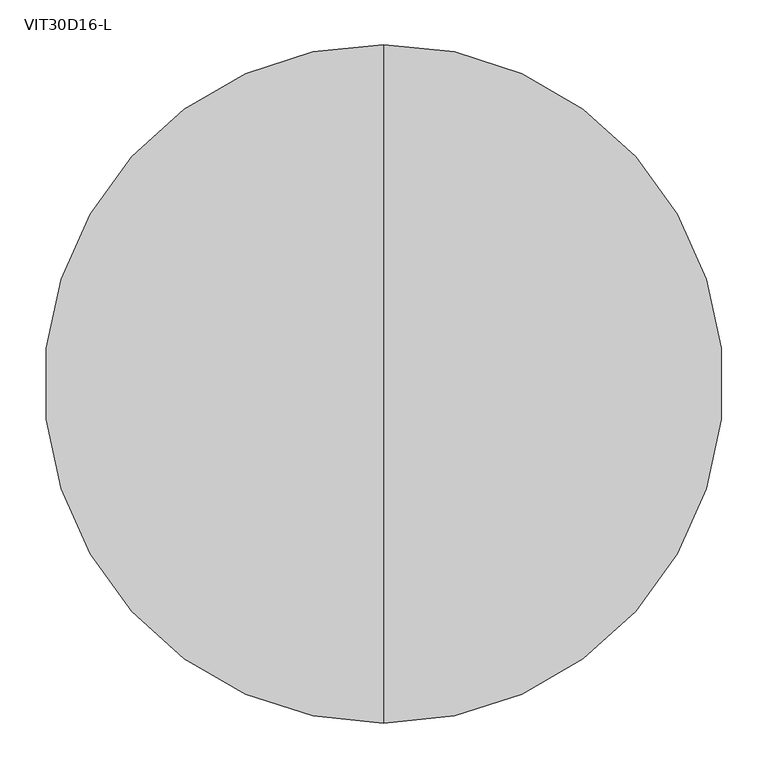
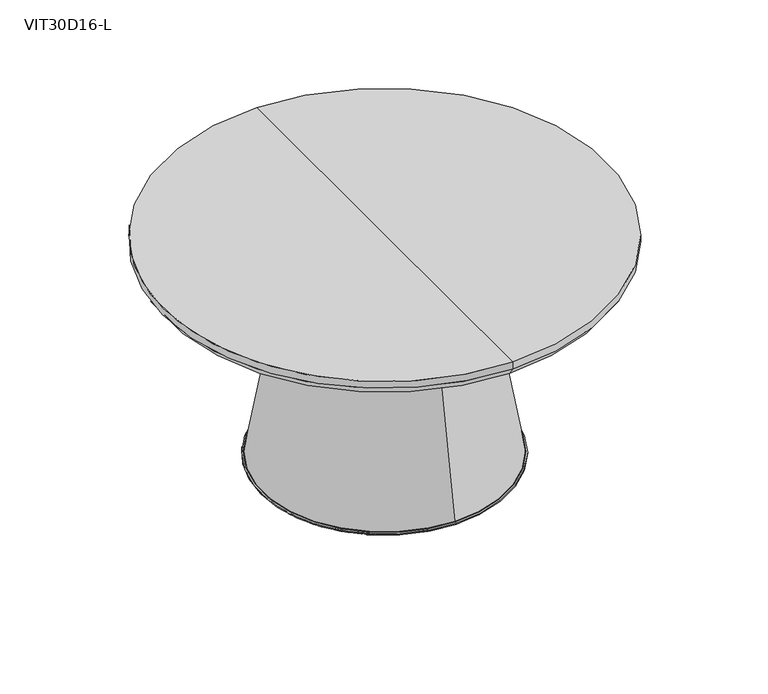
"""IFC4 building model written with IfcOpenShell, lengths in millimetres: furniture geometry, Stance_HC-Villa_Tables : VIT30D16-L."""

from ifc_helpers import new_model, si_unit, point, frame, frame_2d, origin, origin_with_axes, place, context, project, spatial, polyline, circle_curve, trimmed, segment, composite_curve, outline, extrude, source, transform, mapped, element, save
from ifc_brep_helpers import plane_surface, cylinder_surface, revolved_surface, advanced_brep


def vit30d16_l_2d9a9160(model_context):
    return source(origin(), model_context, "Body", "SolidModel", [
        advanced_brep(
        [(0.0, -143.8304782, 381.0), (0.0, 143.8304782, 381.0), (0.0, 209.2542601, 12.7402931), (0.0, -209.2542601, 12.7402931), (0.0, 0.0, 381.0), (0.0, 0.0, 12.7402931)],
        [
            (0, 1, circle_curve(frame((0.0, 0.0, 381.0), z_axis=(0.0, 0.0, -1.0), x_axis=(0.0, 1.0, 0.0)), 143.8304782)),
            (1, 2),
            (2, 3, circle_curve(frame((0.0, 0.0, 12.7402931), z_axis=(0.0, 0.0, 1.0), x_axis=(0.0, 1.0, 0.0)), 209.2542601)),
            (3, 0),
            (1, 0, circle_curve(frame((0.0, 0.0, 381.0), z_axis=(0.0, 0.0, -1.0), x_axis=(0.0, 1.0, 0.0)), 143.8304782)),
            (3, 2, circle_curve(frame((0.0, 0.0, 12.7402931), z_axis=(0.0, 0.0, 1.0), x_axis=(0.0, 1.0, 0.0)), 209.2542601)),
            (4, 1),
            (0, 4),
            (2, 5),
            (5, 3),
        ],
        [
            revolved_surface(polyline([(0.0, 209.2542601, 12.7402931), (0.0, 143.8304782, 381.0)]), (0.0, 0.0, 381.0), (0.0, 0.0, 1.0)),
            plane_surface(frame((0.0, 0.0, 381.0), z_axis=(0.0, 0.0, 1.0), x_axis=(0.0, 1.0, 0.0))),
            plane_surface(frame((0.0, 0.0, 12.7402931), z_axis=(0.0, 0.0, -1.0), x_axis=(0.0, 1.0, 0.0))),
        ],
        [
            (0, [[1, 2, 3, 4]]),
            (0, [[5, -4, 6, -2]]),
            (1, [[7, -1, 8]]),
            (1, [[-8, -5, -7]]),
            (2, [[-3, 9, 10]]),
            (2, [[-6, -10, -9]]),
        ],
    ),
        advanced_brep(
        [(0.0, -211.1240996, 7.9463926), (0.0, 211.1240996, 7.9463926), (0.0, 209.1775078, 7.9463926), (0.0, -209.1775078, 7.9463926), (0.0, -212.7493546, 9.5716476), (0.0, 212.7493546, 9.5716476), (0.0, -212.7493546, 11.1150382), (0.0, 212.7493546, 11.1150382), (0.0, -211.1240996, 12.7402931), (0.0, 211.1240996, 12.7402931), (0.0, -209.1775078, 12.7402931), (0.0, 209.1775078, 12.7402931)],
        [
            (0, 1, circle_curve(frame((0.0, 0.0, 7.9463926), z_axis=(0.0, 0.0, -1.0), x_axis=(0.0, 1.0, 0.0)), 211.1240996)),
            (1, 2),
            (2, 3, circle_curve(frame((0.0, 0.0, 7.9463926), z_axis=(0.0, 0.0, 1.0), x_axis=(0.0, 1.0, 0.0)), 209.1775078)),
            (3, 0),
            (1, 0, circle_curve(frame((0.0, 0.0, 7.9463926), z_axis=(0.0, 0.0, -1.0), x_axis=(0.0, 1.0, 0.0)), 211.1240996)),
            (3, 2, circle_curve(frame((0.0, 0.0, 7.9463926), z_axis=(0.0, 0.0, 1.0), x_axis=(0.0, 1.0, 0.0)), 209.1775078)),
            (4, 5, circle_curve(frame((0.0, 0.0, 9.5716476), z_axis=(0.0, 0.0, -1.0), x_axis=(0.0, 1.0, 0.0)), 212.7493546)),
            (5, 1),
            (0, 4),
            (5, 4, circle_curve(frame((0.0, 0.0, 9.5716476), z_axis=(0.0, 0.0, -1.0), x_axis=(0.0, 1.0, 0.0)), 212.7493546)),
            (6, 7, circle_curve(frame((0.0, 0.0, 11.1150382), z_axis=(0.0, 0.0, -1.0), x_axis=(0.0, 1.0, 0.0)), 212.7493546)),
            (7, 5),
            (4, 6),
            (7, 6, circle_curve(frame((0.0, 0.0, 11.1150382), z_axis=(0.0, 0.0, -1.0), x_axis=(0.0, 1.0, 0.0)), 212.7493546)),
            (8, 9, circle_curve(frame((0.0, 0.0, 12.7402931), z_axis=(0.0, 0.0, -1.0), x_axis=(0.0, 1.0, 0.0)), 211.1240996)),
            (9, 7),
            (6, 8),
            (9, 8, circle_curve(frame((0.0, 0.0, 12.7402931), z_axis=(0.0, 0.0, -1.0), x_axis=(0.0, 1.0, 0.0)), 211.1240996)),
            (10, 11, circle_curve(frame((0.0, 0.0, 12.7402931), z_axis=(0.0, 0.0, -1.0), x_axis=(0.0, 1.0, 0.0)), 209.1775078)),
            (11, 9),
            (8, 10),
            (11, 10, circle_curve(frame((0.0, 0.0, 12.7402931), z_axis=(0.0, 0.0, -1.0), x_axis=(0.0, 1.0, 0.0)), 209.1775078)),
            (2, 11),
            (10, 3),
        ],
        [
            plane_surface(frame((0.0, 0.0, 7.9463926), z_axis=(0.0, 0.0, -1.0), x_axis=(0.0, 1.0, 0.0))),
            revolved_surface(polyline([(0.0, 211.1240996, 7.9463926), (0.0, 212.7493546, 9.5716476)]), (0.0, 0.0, 0.0), (0.0, 0.0, 1.0)),
            cylinder_surface(frame((0.0, 0.0, 0.0), z_axis=(0.0, 0.0, 1.0), x_axis=(0.0, 1.0, 0.0)), 212.7493546),
            revolved_surface(polyline([(0.0, 212.7493546, 11.1150382), (0.0, 211.1240996, 12.7402931)]), (0.0, 0.0, 0.0), (0.0, 0.0, 1.0)),
            plane_surface(frame((0.0, 0.0, 12.7402931), z_axis=(0.0, 0.0, 1.0), x_axis=(0.0, 1.0, 0.0))),
            revolved_surface(polyline([(0.0, 209.1775078, 12.7402931), (0.0, 209.1775078, 7.9463926)]), (0.0, 0.0, 0.0), (0.0, 0.0, 1.0)),
        ],
        [
            (0, [[1, 2, 3, 4]]),
            (0, [[5, -4, 6, -2]]),
            (1, [[7, 8, -1, 9]]),
            (1, [[10, -9, -5, -8]]),
            (2, [[11, 12, -7, 13]]),
            (2, [[14, -13, -10, -12]]),
            (3, [[15, 16, -11, 17]]),
            (3, [[18, -17, -14, -16]]),
            (4, [[19, 20, -15, 21]]),
            (4, [[22, -21, -18, -20]]),
            (5, [[-3, 23, -19, 24]]),
            (5, [[-6, -24, -22, -23]]),
        ],
    ),
        extrude(outline(composite_curve([segment(trimmed(circle_curve(frame_2d((0.0, 177.7982666)), 20.6375), [point((-20.6375, 177.7982666))], [point((20.6375, 177.7982666))], False, "CARTESIAN"), True, "CONTINUOUS"), segment(trimmed(circle_curve(frame_2d((0.0, 177.7982666)), 20.6375), [point((20.6375, 177.7982666))], [point((-20.6375, 177.7982666))], False, "CARTESIAN"), True, "CONTINUOUS")], self_intersect=False)), origin_with_axes(), (0.0, 0.0, 1.0), 12.7),
        extrude(outline(composite_curve([segment(trimmed(circle_curve(frame_2d((-153.9778157, 88.8991333)), 20.6375), [point((-174.6153157, 88.8991333))], [point((-133.3403157, 88.8991333))], False, "CARTESIAN"), True, "CONTINUOUS"), segment(trimmed(circle_curve(frame_2d((-153.9778157, 88.8991333)), 20.6375), [point((-133.3403157, 88.8991333))], [point((-174.6153157, 88.8991333))], False, "CARTESIAN"), True, "CONTINUOUS")], self_intersect=False)), origin_with_axes(), (0.0, 0.0, 1.0), 12.7),
        extrude(outline(composite_curve([segment(trimmed(circle_curve(frame_2d((153.9778157, 88.8991333)), 20.6375), [point((133.3403157, 88.8991333))], [point((174.6153157, 88.8991333))], False, "CARTESIAN"), True, "CONTINUOUS"), segment(trimmed(circle_curve(frame_2d((153.9778157, 88.8991333)), 20.6375), [point((174.6153157, 88.8991333))], [point((133.3403157, 88.8991333))], False, "CARTESIAN"), True, "CONTINUOUS")], self_intersect=False)), origin_with_axes(), (0.0, 0.0, 1.0), 12.7),
        extrude(outline(composite_curve([segment(trimmed(circle_curve(frame_2d((0.0, -177.7982666)), 20.6375), [point((-20.6375, -177.7982666))], [point((20.6375, -177.7982666))], False, "CARTESIAN"), True, "CONTINUOUS"), segment(trimmed(circle_curve(frame_2d((0.0, -177.7982666)), 20.6375), [point((20.6375, -177.7982666))], [point((-20.6375, -177.7982666))], False, "CARTESIAN"), True, "CONTINUOUS")], self_intersect=False)), origin_with_axes(), (0.0, 0.0, 1.0), 12.7),
        extrude(outline(composite_curve([segment(trimmed(circle_curve(frame_2d((-153.9778157, -88.8991333)), 20.6375), [point((-174.6153157, -88.8991333))], [point((-133.3403157, -88.8991333))], False, "CARTESIAN"), True, "CONTINUOUS"), segment(trimmed(circle_curve(frame_2d((-153.9778157, -88.8991333)), 20.6375), [point((-133.3403157, -88.8991333))], [point((-174.6153157, -88.8991333))], False, "CARTESIAN"), True, "CONTINUOUS")], self_intersect=False)), origin_with_axes(), (0.0, 0.0, 1.0), 12.7),
        extrude(outline(composite_curve([segment(trimmed(circle_curve(frame_2d((153.9778157, -88.8991333)), 20.6375), [point((133.3403157, -88.8991333))], [point((174.6153157, -88.8991333))], False, "CARTESIAN"), True, "CONTINUOUS"), segment(trimmed(circle_curve(frame_2d((153.9778157, -88.8991333)), 20.6375), [point((174.6153157, -88.8991333))], [point((133.3403157, -88.8991333))], False, "CARTESIAN"), True, "CONTINUOUS")], self_intersect=False)), origin_with_axes(), (0.0, 0.0, 1.0), 12.7),
        advanced_brep(
        [(0.0, -381.0, 406.4), (0.0, 381.0, 406.4), (0.0, 381.0, 394.0316493), (0.0, -381.0, 394.0316493), (0.0, 0.0, 406.4), (0.0, -371.0418974, 379.8100049), (0.0, 371.0418974, 379.8100049), (0.0, 0.0, 379.8100049)],
        [
            (0, 1, circle_curve(frame((0.0, 0.0, 406.4), z_axis=(0.0, 0.0, -1.0), x_axis=(0.0, 1.0, 0.0)), 381.0)),
            (1, 2),
            (2, 3, circle_curve(frame((0.0, 0.0, 394.0316493), z_axis=(0.0, 0.0, 1.0), x_axis=(0.0, 1.0, 0.0)), 381.0)),
            (3, 0),
            (1, 0, circle_curve(frame((0.0, 0.0, 406.4), z_axis=(0.0, 0.0, -1.0), x_axis=(0.0, 1.0, 0.0)), 381.0)),
            (3, 2, circle_curve(frame((0.0, 0.0, 394.0316493), z_axis=(0.0, 0.0, 1.0), x_axis=(0.0, 1.0, 0.0)), 381.0)),
            (4, 1),
            (0, 4),
            (5, 6, circle_curve(frame((0.0, 0.0, 379.8100049), z_axis=(0.0, 0.0, -1.0), x_axis=(0.0, 1.0, 0.0)), 371.0418974)),
            (6, 7),
            (7, 5),
            (6, 5, circle_curve(frame((0.0, 0.0, 379.8100049), z_axis=(0.0, 0.0, -1.0), x_axis=(0.0, 1.0, 0.0)), 371.0418974)),
            (2, 6),
            (5, 3),
        ],
        [
            cylinder_surface(frame((0.0, 0.0, 406.4), z_axis=(0.0, 0.0, 1.0), x_axis=(0.0, 1.0, 0.0)), 381.0),
            plane_surface(frame((0.0, 0.0, 406.4), z_axis=(0.0, 0.0, 1.0), x_axis=(0.0, 1.0, 0.0))),
            plane_surface(frame((0.0, 0.0, 379.8100049), z_axis=(0.0, 0.0, -1.0), x_axis=(0.0, 1.0, 0.0))),
            revolved_surface(polyline([(0.0, 371.0418974, 379.8100049), (0.0, 381.0, 394.0316493)]), (0.0, 0.0, 406.4), (0.0, 0.0, 1.0)),
        ],
        [
            (0, [[1, 2, 3, 4]]),
            (0, [[5, -4, 6, -2]]),
            (1, [[7, -1, 8]]),
            (1, [[-8, -5, -7]]),
            (2, [[9, 10, 11]]),
            (2, [[12, -11, -10]]),
            (3, [[-3, 13, -9, 14]]),
            (3, [[-6, -14, -12, -13]]),
        ],
    ),
    ])


if __name__ == "__main__":
    model = new_model("IFC4")
    model_context = context("Model", 3, world=origin())
    ifc_project = project(units=[si_unit("LENGTHUNIT", "METRE", prefix="MILLI")], contexts=[model_context])
    site = spatial("IfcSite", under=ifc_project)
    building = spatial("IfcBuilding", under=site)
    placement = place(None, origin())
    vit30d16_l_shape = vit30d16_l_2d9a9160(model_context)
    element("IfcFurniture", 1, ObjectType="Stance_HC-Villa_Tables : VIT30D16-L", at=placement, inside=building, context=model_context, shape_type="MappedRepresentation", body=[
        mapped(vit30d16_l_shape, transform((0.0, 0.0, 0.0), x_axis=(1.0, 0.0, 0.0), y_axis=(0.0, 1.0, 0.0), z_axis=(0.0, 0.0, 1.0))),
    ])
    save(model, "model.ifc")
